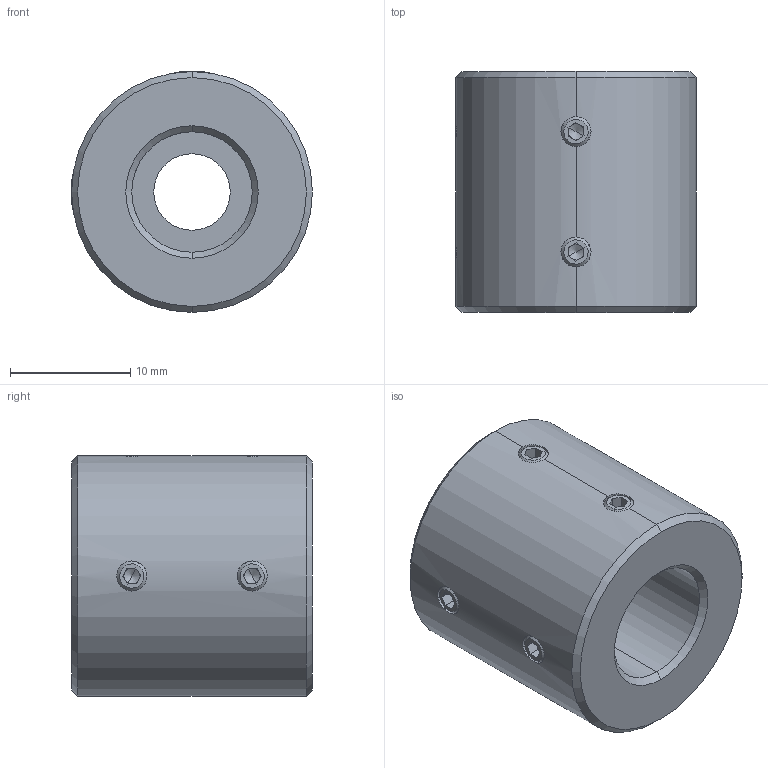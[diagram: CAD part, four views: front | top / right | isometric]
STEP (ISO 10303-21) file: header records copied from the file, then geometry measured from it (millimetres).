
FILE_DESCRIPTION (( 'STEP AP214' ), '1' );
FILE_NAME ('LL-D-D20L20-6.35-10.STEP', '2022-07-23T06:34:56', ( '' ), ( '' ), 'SwSTEP 2.0', 'SolidWorks 2022', '' );
FILE_SCHEMA (( 'AUTOMOTIVE_DESIGN' ));
Length unit declared in the file: millimetre
Products named in the file (1): LL-D-D20L20-6.35-10
Bounding box: 20 x 20 x 20 mm (x, y, z)
Volume: 5108.8 mm3; surface area: 2399 mm2
Topology: 1 solids, 1 shells, 113 faces, 286 edges, 176 vertices
Faces by surface type: plane 59, cone 32, cylinder 22
Entity records: 3634 total; most frequent: CARTESIAN_POINT 884, DIRECTION 582, ORIENTED_EDGE 556, EDGE_CURVE 278, AXIS2_PLACEMENT_3D 214, VERTEX_POINT 176, LINE 154, VECTOR 154
